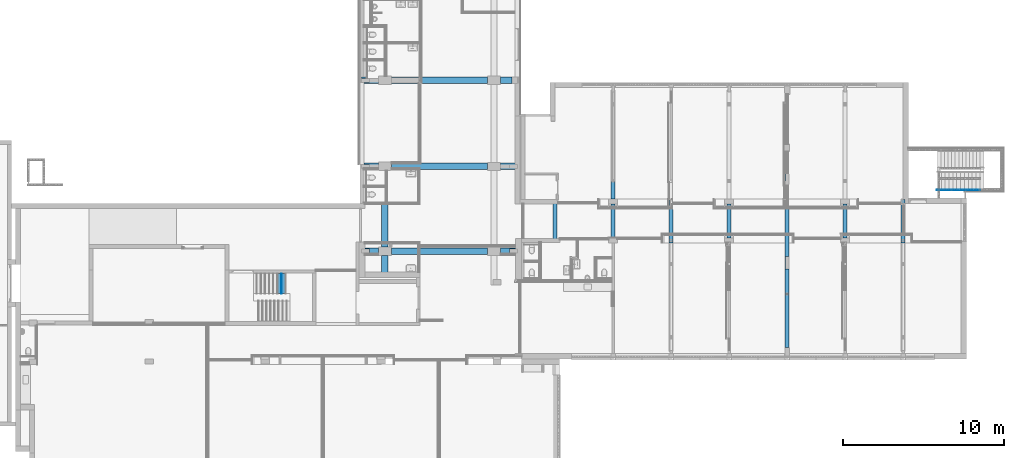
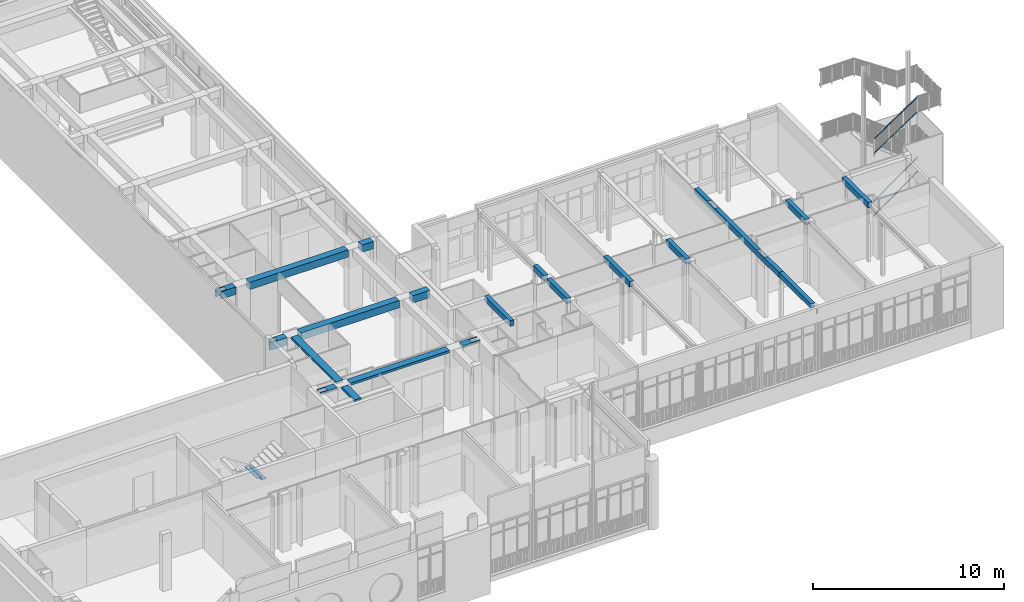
# One storey, part 59 of 135: 12 beams, 7 members, 3 elements without a shape of their own.
"""IFC2X3 building model written with IfcOpenShell, lengths in millimetres."""

from ifc_helpers import new_model, entity, si_unit, converted_unit, derived_unit, money_unit, direction, frame, origin_with_axes, place, context, subcontext, project, spatial, faceted_brep, material, type_object, element, aggregate, save


model = new_model("IFC2X3")

# Units and contexts
model_context = context("Model", 3, precision=0.01, world=origin_with_axes(), true_north=direction((0.0, 1.0)))
body_context = subcontext(model_context, "Body", "Model", "MODEL_VIEW")
ifc_project = project(units=[si_unit("LENGTHUNIT", "METRE", prefix="MILLI"), si_unit("AREAUNIT", "SQUARE_METRE"), si_unit("VOLUMEUNIT", "CUBIC_METRE"), converted_unit("PLANEANGLEUNIT", "DEGREE", entity("IfcPlaneAngleMeasure", 0.0174532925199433), si_unit("PLANEANGLEUNIT", "RADIAN"), dimensions=[0, 0, 0, 0, 0, 0, 0]), money_unit("EUR"), converted_unit("TIMEUNIT", "Year", entity("IfcTimeMeasure", 31557600.0), si_unit("TIMEUNIT", "SECOND"), dimensions=[0, 0, 1, 0, 0, 0, 0]), si_unit("MASSUNIT", "GRAM", prefix="KILO"), si_unit("THERMODYNAMICTEMPERATUREUNIT", "DEGREE_CELSIUS"), si_unit("LUMINOUSINTENSITYUNIT", "LUMEN"), si_unit("ENERGYUNIT", "JOULE", prefix="MEGA"), derived_unit("THERMALCONDUCTANCEUNIT", [(si_unit("POWERUNIT", "WATT"), 1), (si_unit("LENGTHUNIT", "METRE"), -1), (si_unit("THERMODYNAMICTEMPERATUREUNIT", "KELVIN"), -1)]), derived_unit("SPECIFICHEATCAPACITYUNIT", [(si_unit("ENERGYUNIT", "JOULE"), 1), (si_unit("MASSUNIT", "GRAM", prefix="KILO"), -1), (si_unit("THERMODYNAMICTEMPERATUREUNIT", "KELVIN"), -1)]), derived_unit("MASSDENSITYUNIT", [(si_unit("MASSUNIT", "GRAM", prefix="KILO"), 1), (si_unit("VOLUMEUNIT", "CUBIC_METRE"), -1)])], contexts=[model_context])

# Site, building, storey
site_placement = place(None, origin_with_axes())
site = spatial("IfcSite", under=ifc_project, at=site_placement, Name="Site", CompositionType="ELEMENT")
building_placement = place(site_placement, origin_with_axes())
building = spatial("IfcBuilding", under=site, at=building_placement, Name="Naam gebouw", CompositionType="ELEMENT")
storey_placement = place(building_placement, origin_with_axes())
storey = spatial("IfcBuildingStorey", under=building, at=storey_placement, Name="Begane grond N", CompositionType="ELEMENT", Elevation=0.0)

# Railing, members
railing_type = type_object("IfcRailingType", Name="Railing Type", PredefinedType="NOTDEFINED")
railing_1_placement = place(storey_placement, frame((56236.62159597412, 21185.9124251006, 157.4646725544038), z_axis=(0.0, 0.0, 1.0), x_axis=(1.0, 0.0, 0.0)))
railing_1 = element("IfcRailing", 1, at=railing_1_placement, inside=storey, type_object=railing_type, Name="_Reling-x", PredefinedType="NOTDEFINED")
ifc_material_1 = material(Name="Metaal - Staal C")
member_type_1 = type_object("IfcMemberType", Name="IfcMember", PredefinedType="USERDEFINED")
member_1_placement = place(railing_1_placement, frame((1202.89689632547, -24.99999999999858, 971.7157287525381), z_axis=(0.0, 0.0, 1.0), x_axis=(1.0, 0.0, 0.0)))
member_1 = element("IfcMember", 2, at=member_1_placement, type_object=member_type_1, material=ifc_material_1, Name="_Bovenregel-x", context=body_context, shape_type="Brep", body=[
    faceted_brep([(-1339.518492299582, -19.99999999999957, 28.2842712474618), (-1327.827203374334, -19.99999999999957, 12.05732565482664), (1345.972963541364, -19.99999999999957, 1938.493209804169), (1339.51849229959, -19.99999999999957, 1958.493209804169), (-1339.518492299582, 19.99999999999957, 28.2842712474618), (-1327.827203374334, 19.99999999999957, 12.05732565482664), (1345.972963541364, 19.99999999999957, 1938.493209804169), (1339.51849229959, 19.99999999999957, 1958.493209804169)], [[[0, 1, 2, 3]], [[0, 4, 5, 1]], [[1, 5, 6, 2]], [[3, 2, 6, 7]], [[4, 0, 3, 7]], [[5, 4, 7, 6]]]),
])
member_2_placement = place(railing_1_placement, frame((1202.89689632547, -24.99999999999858, 47.63932022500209), z_axis=(0.0, 0.0, 1.0), x_axis=(1.0, 0.0, 0.0)))
member_2 = element("IfcMember", 3, at=member_2_placement, type_object=member_type_1, material=ifc_material_1, Name="_Regel-x", context=body_context, shape_type="Brep", body=[
    faceted_brep([(-1345.364136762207, -19.99999999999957, 30.47415257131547), (-1333.672847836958, -19.99999999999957, 14.24720697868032), (1342.745727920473, -19.99999999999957, 1942.569618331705), (1336.291256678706, -19.99999999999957, 1962.569618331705), (-1345.364136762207, 19.99999999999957, 30.47415257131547), (-1333.672847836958, 19.99999999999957, 14.24720697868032), (1342.745727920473, 19.99999999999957, 1942.569618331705), (1336.291256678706, 19.99999999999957, 1962.569618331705)], [[[0, 1, 2, 3]], [[0, 4, 5, 1]], [[1, 5, 6, 2]], [[3, 2, 6, 7]], [[4, 0, 3, 7]], [[5, 4, 7, 6]]]),
])
aggregate(railing_1, [member_1, member_2])

railing_2_placement = place(storey_placement, frame((56236.62159597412, 21185.9124251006, 4176.0), z_axis=(0.0, 0.0, 1.0), x_axis=(1.0, 0.0, 0.0)))
railing_2 = element("IfcRailing", 4, at=railing_2_placement, inside=storey, type_object=railing_type, Name="_Reling-x", PredefinedType="NOTDEFINED")
member_3_placement = place(railing_2_placement, frame((1221.712123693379, -24.99999999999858, 971.715728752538), z_axis=(0.0, 0.0, 1.0), x_axis=(1.0, 0.0, 0.0)))
member_3 = element("IfcMember", 5, at=member_3_placement, type_object=member_type_1, material=ifc_material_1, Name="_Bovenregel-x", context=body_context, shape_type="Brep", body=[
    faceted_brep([(-1299.780336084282, -19.99999999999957, 28.28427124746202), (-1288.670246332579, -19.99999999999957, 11.6540004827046), (1305.846406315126, -19.99999999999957, 1744.957882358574), (1299.780336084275, -19.99999999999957, 1764.957882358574), (-1299.780336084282, 19.99999999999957, 28.28427124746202), (-1288.670246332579, 19.99999999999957, 11.6540004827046), (1305.846406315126, 19.99999999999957, 1744.957882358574), (1299.780336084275, 19.99999999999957, 1764.957882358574)], [[[0, 1, 2, 3]], [[0, 4, 5, 1]], [[1, 5, 6, 2]], [[3, 2, 6, 7]], [[4, 0, 3, 7]], [[5, 4, 7, 6]]]),
])
member_4_placement = place(railing_2_placement, frame((1221.712123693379, -24.99999999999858, 47.63932022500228), z_axis=(0.0, 0.0, 1.0), x_axis=(1.0, 0.0, 0.0)))
member_4 = element("IfcMember", 6, at=member_4_placement, type_object=member_type_1, material=ifc_material_1, Name="_Regel-x", context=body_context, shape_type="Brep", body=[
    faceted_brep([(-1305.33538096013, -19.99999999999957, 30.67581515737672), (-1294.225291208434, -19.99999999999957, 14.04554439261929), (1302.813371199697, -19.99999999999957, 1749.03429088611), (1296.747300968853, -19.99999999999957, 1769.034290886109), (-1305.33538096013, 19.99999999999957, 30.67581515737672), (-1294.225291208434, 19.99999999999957, 14.04554439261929), (1302.813371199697, 19.99999999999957, 1749.03429088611), (1296.747300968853, 19.99999999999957, 1769.034290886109)], [[[0, 1, 2, 3]], [[0, 4, 5, 1]], [[1, 5, 6, 2]], [[3, 2, 6, 7]], [[4, 0, 3, 7]], [[5, 4, 7, 6]]]),
])
aggregate(railing_2, [member_3, member_4])

# Stair, members
stair_placement = place(storey_placement, frame((15729.70019705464, 14715.92025998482, 1379.0), z_axis=(0.0, 0.0, 1.0), x_axis=(1.0, 0.0, 0.0)))
stair = element("IfcStair", 7, at=stair_placement, inside=storey, Name="_Trap-x", ShapeType="NOTDEFINED")
ifc_material_2 = material(Name="Hout - Vloer")
member_type_2 = type_object("IfcMemberType", Name="IfcMember", PredefinedType="USERDEFINED")
member_5_placement = place(stair_placement, frame((0.0, 619.9999999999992, 173.5), z_axis=(0.0, 0.0, 1.0), x_axis=(0.0, 1.0, 0.0)))
member_5 = element("IfcMember", 8, at=member_5_placement, type_object=member_type_2, material=ifc_material_2, Name="_Traptrede-x", context=body_context, shape_type="Brep", body=[
    faceted_brep([(-620.0, 0.0, -38.0), (620.0, 0.0, -38.0), (620.0, 0.0, 0.0), (-620.0, 0.0, 0.0), (-620.0, 315.3999598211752, -38.0), (620.0, 315.3999598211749, -38.0), (620.0, 315.3999598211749, 0.0), (-620.0, 315.3999598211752, 0.0)], [[[0, 1, 2, 3]], [[0, 4, 5, 1]], [[1, 5, 6, 2]], [[3, 2, 6, 7]], [[4, 0, 3, 7]], [[5, 4, 7, 6]]]),
])
member_6_placement = place(stair_placement, frame((-257.3999598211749, 619.9999999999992, 347.0), z_axis=(0.0, 0.0, 1.0), x_axis=(0.0, 1.0, 0.0)))
member_6 = element("IfcMember", 9, at=member_6_placement, type_object=member_type_2, material=ifc_material_2, Name="_Traptrede-x", context=body_context, shape_type="Brep", body=[
    faceted_brep([(-620.0, 0.0, -38.0), (620.0, 0.0, -38.0), (620.0, 0.0, 0.0), (-620.0, 0.0, 0.0), (-620.0, 315.3999598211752, -38.0), (620.0, 315.3999598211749, -38.0), (620.0, 315.3999598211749, 0.0), (-620.0, 315.3999598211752, 0.0)], [[[0, 1, 2, 3]], [[0, 4, 5, 1]], [[1, 5, 6, 2]], [[3, 2, 6, 7]], [[4, 0, 3, 7]], [[5, 4, 7, 6]]]),
])

# Beams
ifc_material_3 = material(Name="ALG - CONSTRUCTIEF KOLOM")
beam_type_1 = type_object("IfcBeamType", Name="ALG - CONSTRUCTIEF KOLOM 400 x 470", PredefinedType="BEAM")
beam_1_placement = place(storey_placement, frame((20386.0, 27955.91242510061, 3850.0), z_axis=(0.0, 0.0, 1.0), x_axis=(0.0, -1.0, 0.0)))
element("IfcBeam", 10, at=beam_1_placement, inside=storey, type_object=beam_type_1, material=ifc_material_3, Name="_Balk-x", ObjectType="BEAM", context=body_context, shape_type="Brep", body=[
    faceted_brep([(199.9999999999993, 149.9999999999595, 0.0), (200.0000161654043, 1040.000002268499, 0.0), (-199.9999999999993, 1040.000000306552, 0.0), (-199.9999999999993, 0.0, 0.0), (-125.0, 0.0, 0.0), (-125.0, 500.0, 0.0), (125.0, 500.0, 0.0), (125.0, 150.0000000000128, 0.0), (199.9999999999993, 149.9999999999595, -470.0019126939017), (199.9999999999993, 1040.000002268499, -470.0019126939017), (-199.9999999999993, 1040.000002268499, -470.0019126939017), (-199.9999999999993, 0.0, -470.0019126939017), (-125.0, 0.0, -470.0019126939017), (-125.0, 500.0, -470.0019126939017), (125.0, 500.0, -470.0019126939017), (125.0, 149.9999999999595, -470.0019126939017)], [[[0, 1, 2, 3, 4, 5, 6, 7]], [[8, 9, 1, 0]], [[9, 10, 2, 1]], [[3, 2, 10, 11]], [[11, 12, 4, 3]], [[13, 5, 4, 12]], [[14, 6, 5, 13]], [[15, 7, 6, 14]], [[0, 7, 15, 8]], [[11, 10, 9, 8, 15, 14, 13, 12]]]),
    faceted_brep([(-199.9999999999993, 9339.999999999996, -470.0019126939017), (-199.9999999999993, 8629.999999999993, -470.0019126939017), (-199.9999999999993, 8629.999999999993, 0.0), (-199.9999999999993, 9339.999999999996, 0.0), (199.9999999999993, 9339.999999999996, -470.0019126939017), (199.9999999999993, 8629.999999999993, -470.0019126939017), (199.9999999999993, 8629.999999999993, 0.0), (199.9999999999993, 9339.999999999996, 0.0)], [[[0, 1, 2, 3]], [[4, 5, 1, 0]], [[5, 6, 2, 1]], [[3, 2, 6, 7]], [[4, 0, 3, 7]], [[7, 6, 5, 4]]]),
    faceted_brep([(-199.9999999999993, 7809.999999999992, -470.0019126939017), (-199.9999999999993, 1859.99999942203, -470.0019126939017), (-199.9999999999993, 1859.999999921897, 0.0), (-199.9999999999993, 7809.999999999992, 0.0), (199.9999999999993, 7809.999999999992, -470.0019126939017), (199.9999999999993, 1859.99999942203, -470.0019126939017), (200.0000061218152, 1859.99999942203, 0.0), (199.9999999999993, 7809.999999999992, 0.0)], [[[0, 1, 2, 3]], [[4, 5, 1, 0]], [[5, 6, 2, 1]], [[3, 2, 6, 7]], [[4, 0, 3, 7]], [[7, 6, 5, 4]]]),
])
beam_2_placement = place(storey_placement, frame((20386.0, 22620.0978083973, 3850.0), z_axis=(0.0, 0.0, 1.0), x_axis=(0.0, -1.0, 0.0)))
element("IfcBeam", 11, at=beam_2_placement, inside=storey, type_object=beam_type_1, material=ifc_material_3, Name="_Balk-x", ObjectType="BEAM", context=body_context, shape_type="Brep", body=[
    faceted_brep([(199.9999999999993, 0.0, 0.0), (199.9999999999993, 1039.999999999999, 0.0), (-199.9999999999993, 1039.999999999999, 0.0), (-199.9999999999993, 149.9999999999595, 0.0), (-130.8146167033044, 150.0000000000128, 0.0), (-130.8146167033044, 500.0, 0.0), (119.1853832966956, 500.0, 0.0), (119.1853832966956, 0.0, 0.0), (199.9999999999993, 0.0, -470.0025871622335), (199.9999999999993, 1039.999999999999, -470.0025871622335), (-199.9999999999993, 1039.999999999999, -470.0025871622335), (-199.9999999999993, 149.9999999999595, -470.0025871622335), (-130.8146167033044, 149.9999999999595, -470.0025871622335), (-130.8146167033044, 500.0, -470.0025871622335), (119.1853832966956, 500.0, -470.0025871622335), (119.1853832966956, 0.0, -470.0025871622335)], [[[0, 1, 2, 3, 4, 5, 6, 7]], [[8, 9, 1, 0]], [[9, 10, 2, 1]], [[3, 2, 10, 11]], [[11, 12, 4, 3]], [[13, 5, 4, 12]], [[14, 6, 5, 13]], [[7, 6, 14, 15]], [[0, 7, 15, 8]], [[11, 10, 9, 8, 15, 14, 13, 12]]]),
    faceted_brep([(-199.9999999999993, 9669.999999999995, -470.0025871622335), (-199.9999999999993, 8619.99999999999, -470.0025871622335), (-199.9999999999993, 8619.99999999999, 0.0), (-199.9999999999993, 9669.999999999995, 0.0), (199.9999999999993, 9669.999999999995, -470.0025871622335), (199.9999999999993, 8619.99999999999, -470.0025871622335), (-130.8146167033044, 9669.999999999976, -470.0025871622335), (-130.8146167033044, 9169.999999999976, -470.0025871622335), (119.1853832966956, 9169.999999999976, -470.0025871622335), (119.1853832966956, 9669.999999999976, -470.0025871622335), (199.9999999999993, 8619.99999999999, 0.0), (199.9999999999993, 9669.999999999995, 0.0), (119.1853832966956, 9669.999999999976, -150.0000000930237), (-130.8146167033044, 9669.999999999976, -150.0000000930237), (-130.8146167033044, 9169.999999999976, -150.0000000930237), (119.1853832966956, 9169.999999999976, -150.0000000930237)], [[[0, 1, 2, 3]], [[4, 5, 1, 0, 6, 7, 8, 9]], [[5, 10, 2, 1]], [[3, 2, 10, 11]], [[4, 9, 12, 13, 6, 0, 3, 11]], [[11, 10, 5, 4]], [[7, 6, 13, 14]], [[15, 8, 7, 14]], [[15, 12, 9, 8]], [[14, 13, 12, 15]]]),
    faceted_brep([(-199.9999999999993, 7819.999999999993, -470.0025871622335), (-199.9999999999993, 1860.0, -470.0025871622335), (-199.9999999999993, 1860.0, 0.0), (-199.9999999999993, 7819.999999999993, 0.0), (199.9999999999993, 7819.999999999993, -470.0025871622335), (199.9999999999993, 1860.0, -470.0025871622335), (199.9999999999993, 1860.0, 0.0), (199.9999999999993, 7819.999999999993, 0.0)], [[[0, 1, 2, 3]], [[4, 5, 1, 0]], [[5, 6, 2, 1]], [[3, 2, 6, 7]], [[4, 0, 3, 7]], [[7, 6, 5, 4]]]),
])

# Member
member_type_3 = type_object("IfcMemberType", Name="IfcMember", PredefinedType="USERDEFINED")
member_7_placement = place(stair_placement, frame((-257.3999598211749, 619.9999999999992, 308.9999999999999), z_axis=(0.0, 0.0, 1.0), x_axis=(0.0, 1.0, 0.0)))
member_7 = element("IfcMember", 12, at=member_7_placement, type_object=member_type_3, material=ifc_material_2, Name="_Stootbord-x", context=body_context, shape_type="Brep", body=[
    faceted_brep([(620.0, 40.0, 0.0), (620.0, 57.99999999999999, 0.0), (-620.0, 58.00000000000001, 0.0), (-620.0, 40.00000000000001, 0.0), (620.0, 40.00000000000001, -135.5), (620.0, 58.00000000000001, -135.5), (-620.0, 58.00000000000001, -135.5), (-620.0, 40.00000000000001, -135.5)], [[[0, 1, 2, 3]], [[0, 4, 5, 1]], [[1, 5, 6, 2]], [[3, 2, 6, 7]], [[4, 0, 3, 7]], [[5, 4, 7, 6]]]),
])

aggregate(stair, [member_7, member_5, member_6])

# Beams
beam_type_2 = type_object("IfcBeamType", Name="ALG - CONSTRUCTIEF KOLOM 250 x 350", PredefinedType="BEAM")
beam_3_placement = place(storey_placement, frame((46800.0, 23769.98273941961, 3850.000195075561), z_axis=(0.0, 0.0, 1.0), x_axis=(-1.0, 0.0, 0.0)))
element("IfcBeam", 13, at=beam_3_placement, inside=storey, type_object=beam_type_2, material=ifc_material_3, Name="_Balk-x", ObjectType="BEAM", context=body_context, shape_type="Brep", body=[
    faceted_brep([(125.0, 9070.140693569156, -350.0001950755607), (125.0, 237.0913588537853, -350.0001950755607), (-125.0, 237.9132433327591, -350.0001950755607), (-125.0, 9070.140693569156, -350.0001950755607), (112.5000000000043, 6739.070314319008, -350.0001950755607), (112.5000000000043, 7509.070314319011, -350.0001950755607), (-112.4999999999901, 7509.070314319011, -350.0001950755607), (-112.4999999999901, 6739.070314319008, -350.0001950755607), (112.5000000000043, 1579.070314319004, -350.0001950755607), (112.5000000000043, 2349.070314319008, -350.0001950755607), (-112.4999999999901, 2349.070314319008, -350.0001950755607), (-112.4999999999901, 1579.070314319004, -350.0001950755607), (125.0, 9070.140693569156, 0.0), (125.0, 237.0913588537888, -0.0001950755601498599), (-125.0, 237.9132433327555, -0.0001950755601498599), (-125.0, 9070.140693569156, 0.0), (112.5000000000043, 6739.070314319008, -0.0001950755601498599), (112.5000000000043, 7509.070314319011, -0.0001950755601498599), (-112.4999999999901, 7509.070314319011, -0.0001950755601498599), (-112.4999999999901, 6739.070314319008, -0.0001950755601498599), (112.5000000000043, 1579.070314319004, -0.0001950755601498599), (112.5000000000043, 2349.070314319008, -0.0001950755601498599), (-112.4999999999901, 2349.070314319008, -0.0001950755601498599), (-112.4999999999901, 1579.070314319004, -0.0001950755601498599)], [[[0, 1, 2, 3], [4, 5, 6, 7], [8, 9, 10, 11]], [[12, 13, 1, 0]], [[1, 13, 14, 2]], [[3, 2, 14, 15]], [[3, 15, 12, 0]], [[4, 16, 17, 5]], [[5, 17, 18, 6]], [[6, 18, 19, 7]], [[7, 19, 16, 4]], [[8, 20, 21, 9]], [[9, 21, 22, 10]], [[10, 22, 23, 11]], [[11, 23, 20, 8]], [[15, 14, 13, 12], [18, 17, 16, 19], [22, 21, 20, 23]]]),
])
for number, where, z_axis, x_axis, name in (
    (14, (43199.99999999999, 20580.91242510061, 3850.0), (0.0, 0.0, 1.0), (-1.0, 0.0, 0.0), "_Balk-x"),
    (15, (50399.99999999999, 20580.91242510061, 3850.0), (0.0, 0.0, 1.0), (-1.0, 0.0, 0.0), "_Balk-x"),
):
    element("IfcBeam", number, at=place(storey_placement, frame(where, z_axis=z_axis, x_axis=x_axis)), inside=storey, type_object=beam_type_2, material=ifc_material_3, Name=name, ObjectType="BEAM", context=body_context, shape_type="Brep", body=[
        faceted_brep([(125.0, 310.0000000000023, 0.0), (125.0, 2399.999999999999, 0.0), (-125.0, 2399.999999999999, 0.0), (-125.0, 310.0000000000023, 0.0), (125.0, 310.0000000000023, -350.0000034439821), (125.0, 2399.999999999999, -350.0000034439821), (-125.0, 2399.999999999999, -350.0000034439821), (-125.0, 310.0000000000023, -350.0000034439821)], [[[0, 1, 2, 3]], [[4, 5, 1, 0]], [[5, 6, 2, 1]], [[3, 2, 6, 7]], [[4, 0, 3, 7]], [[7, 6, 5, 4]]]),
    ])
beam_4_placement = place(storey_placement, frame((54000.0, 20575.91242510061, 3850.0), z_axis=(0.0, 0.0, 1.0), x_axis=(-1.0, 0.0, 0.0)))
element("IfcBeam", 16, at=beam_4_placement, inside=storey, type_object=beam_type_2, material=ifc_material_3, Name="_Balk-x", ObjectType="BEAM", context=body_context, shape_type="Brep", body=[
    faceted_brep([(125.0, 0.0, -350.0000068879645), (-125.0, 0.0, -350.0000068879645), (-125.0, 2705.000000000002, -350.0000068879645), (125.0, 2705.000000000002, -350.0000068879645), (125.0, 0.0, 0.0), (-125.0, 0.0, 0.0), (-125.0, 2705.000000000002, 0.0), (125.0, 2705.000000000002, 0.0)], [[[0, 1, 2, 3]], [[4, 5, 1, 0]], [[1, 5, 6, 2]], [[7, 3, 2, 6]], [[4, 0, 3, 7]], [[5, 4, 7, 6]]]),
])
beam_5_placement = place(storey_placement, frame((39599.99999999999, 20575.9123923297, 3850.0), z_axis=(0.0, 0.0, 1.0), x_axis=(-1.0, 0.0, 0.0)))
element("IfcBeam", 17, at=beam_5_placement, inside=storey, type_object=beam_type_2, material=ifc_material_3, Name="_Balk-x", ObjectType="BEAM", context=body_context, shape_type="Brep", body=[
    faceted_brep([(125.0, 2704.9999672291, -350.0000034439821), (125.0, 0.0, -350.0000034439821), (-125.0, 0.0, -350.0000034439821), (-125.0, 2704.9999672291, -350.0000034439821), (125.0, 2704.9999672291, 0.0), (125.0, 0.0, 0.0), (-125.0, 0.0, 0.0), (-125.0, 2704.9999672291, 0.0)], [[[0, 1, 2, 3]], [[4, 5, 1, 0]], [[1, 5, 6, 2]], [[3, 2, 6, 7]], [[7, 4, 0, 3]], [[7, 6, 5, 4]]]),
])
beam_6_placement = place(storey_placement, frame((36000.0, 21690.9124251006, 3850.0), z_axis=(0.0, 0.0, 1.0), x_axis=(-1.0, 0.0, 0.0)))
element("IfcBeam", 18, at=beam_6_placement, inside=storey, type_object=beam_type_2, material=ifc_material_3, Name="_Balk-x", ObjectType="BEAM", context=body_context, shape_type="Brep", body=[
    faceted_brep([(125.0, 1419.999999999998, 0.0), (125.0, 3509.999999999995, 0.0), (-125.0, 3509.999999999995, 0.0), (-125.0, 1419.999999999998, 0.0), (125.0, 1419.999999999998, -350.0000068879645), (125.0, 3509.999999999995, -350.0000068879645), (-125.0, 3509.999999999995, -350.0000068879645), (-125.0, 1419.999999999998, -350.0000068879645)], [[[0, 1, 2, 3]], [[4, 5, 1, 0]], [[5, 6, 2, 1]], [[3, 2, 6, 7]], [[4, 0, 3, 7]], [[7, 6, 5, 4]]]),
    faceted_brep([(125.0, 0.0, 0.0), (125.0, 1109.999999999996, 0.0), (-125.0, 1109.999999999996, 0.0), (-125.0, 0.0, 0.0), (125.0, 0.0, -350.0000068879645), (125.0, 1109.999999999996, -350.0000068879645), (-125.0, 1109.999999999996, -350.0000068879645), (-125.0, 0.0, -350.0000068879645)], [[[0, 1, 2, 3]], [[4, 5, 1, 0]], [[5, 6, 2, 1]], [[3, 2, 6, 7]], [[7, 4, 0, 3]], [[7, 6, 5, 4]]]),
])
beam_7_placement = place(storey_placement, frame((32399.99999999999, 20550.91242510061, 3850.0), z_axis=(0.0, 0.0, 1.0), x_axis=(-1.0, 0.0, 0.0)))
element("IfcBeam", 19, at=beam_7_placement, inside=storey, type_object=beam_type_2, material=ifc_material_3, Name="_Balk-x", ObjectType="BEAM", context=body_context, shape_type="Brep", body=[
    faceted_brep([(125.0, 0.0, -350.0000103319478), (-125.0, 0.0, -350.0000103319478), (-125.0, 2649.999999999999, -350.0000103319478), (125.0, 2649.999999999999, -350.0000103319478), (125.0, 0.0, 0.0), (-125.0, 0.0, 0.0), (-125.0, 2649.999999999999, 0.0), (125.0, 2649.999999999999, 0.0)], [[[0, 1, 2, 3]], [[4, 5, 1, 0]], [[1, 5, 6, 2]], [[7, 3, 2, 6]], [[4, 0, 3, 7]], [[5, 4, 7, 6]]]),
])
beam_type_3 = type_object("IfcBeamType", Name="ALG - CONSTRUCTIEF KOLOM 400 x 250", PredefinedType="BEAM")
beam_8_placement = place(storey_placement, frame((21836.0, 22625.91242510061, 3950.0), z_axis=(0.0, 0.0, 1.0), x_axis=(-1.0, 0.0, 0.0)))
element("IfcBeam", 20, at=beam_8_placement, inside=storey, type_object=beam_type_3, material=ifc_material_3, Name="_Balk-x", ObjectType="BEAM", context=body_context, shape_type="Brep", body=[
    faceted_brep([(199.9999999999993, 262.4999999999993, -100.0000000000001), (199.9999999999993, 4997.499999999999, -100.0000000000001), (-199.9999999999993, 4997.499999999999, -100.0000000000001), (-199.9999999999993, 262.4999999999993, -100.0000000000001), (199.9999999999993, 262.4999999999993, -250.0000000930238), (199.9999999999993, 4997.499999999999, -250.0000000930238), (-199.9999999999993, 4997.499999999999, -250.0000000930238), (-199.9999999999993, 262.4999999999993, -250.0000000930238)], [[[0, 1, 2, 3]], [[4, 5, 1, 0]], [[5, 6, 2, 1]], [[3, 2, 6, 7]], [[4, 0, 3, 7]], [[7, 6, 5, 4]]]),
    faceted_brep([(-199.9999999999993, 6901.499999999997, -250.0000000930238), (-199.9999999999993, 5522.499999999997, -250.0000000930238), (-199.9999999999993, 5522.499999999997, -100.0000000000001), (-199.9999999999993, 6901.499999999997, -100.0000000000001), (199.9999999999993, 6901.499999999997, -250.0000000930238), (199.9999999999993, 5522.499999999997, -250.0000000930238), (199.9999999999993, 5522.499999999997, -100.0000000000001), (199.9999999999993, 6901.499999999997, -100.0000000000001)], [[[0, 1, 2, 3]], [[4, 5, 1, 0]], [[5, 6, 2, 1]], [[3, 2, 6, 7]], [[4, 0, 3, 7]], [[7, 6, 5, 4]]]),
])
beam_9_placement = place(storey_placement, frame((20386.0, 17365.91242510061, 3950.0), z_axis=(0.0, 0.0, 1.0), x_axis=(0.0, -1.0, 0.0)))
element("IfcBeam", 21, at=beam_9_placement, inside=storey, type_object=beam_type_3, material=ifc_material_3, Name="_Balk-x", ObjectType="BEAM", context=body_context, shape_type="Brep", body=[
    faceted_brep([(199.9999999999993, 0.0, -100.0000000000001), (199.9999999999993, 1040.000000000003, -100.0000000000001), (-199.9999999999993, 1040.000000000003, -100.0000000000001), (-199.9999999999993, 0.0, -100.0000000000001), (-125.0, 0.0, -100.0000000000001), (-125.0, 500.0, -100.0000000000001), (125.0, 500.0, -100.0000000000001), (125.0, 0.0, -100.0000000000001), (199.9999999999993, 0.0, -250.0000000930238), (199.9999999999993, 1040.000000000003, -250.0000000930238), (-199.9999999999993, 1040.000000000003, -250.0000000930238), (-199.9999999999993, 0.0, -250.0000000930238), (-125.0, 0.0, -250.0000000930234), (-125.0, 500.0, -250.0000000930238), (125.0, 500.0, -250.0000000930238), (125.0, 0.0, -250.0000000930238)], [[[0, 1, 2, 3, 4, 5, 6, 7]], [[8, 9, 1, 0]], [[9, 10, 2, 1]], [[3, 2, 10, 11]], [[11, 12, 4, 3]], [[13, 5, 4, 12]], [[14, 6, 5, 13]], [[15, 7, 6, 14]], [[0, 7, 15, 8]], [[11, 10, 9, 8, 15, 14, 13, 12]]]),
    faceted_brep([(-199.9999999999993, 9669.999999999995, -250.0000000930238), (-199.9999999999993, 8629.999999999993, -250.0000000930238), (-199.9999999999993, 8629.999999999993, -100.0000000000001), (-199.9999999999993, 9669.999999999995, -100.0000000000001), (199.9999999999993, 9669.999999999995, -250.0000000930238), (199.9999999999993, 8629.999999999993, -250.0000000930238), (-125.0, 9669.999999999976, -250.0000000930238), (-125.0, 9169.999999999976, -250.0000000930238), (125.0, 9169.999999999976, -250.0000000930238), (125.0, 9669.999999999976, -250.0000000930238), (199.9999999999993, 8629.999999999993, -100.0000000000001), (199.9999999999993, 9669.999999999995, -100.0000000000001), (125.0, 9669.999999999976, -100.0000000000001), (125.0, 9169.999999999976, -100.0000000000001), (-125.0, 9169.999999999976, -100.0000000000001), (-125.0, 9669.999999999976, -100.0000000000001)], [[[0, 1, 2, 3]], [[4, 5, 1, 0, 6, 7, 8, 9]], [[5, 10, 2, 1]], [[3, 2, 10, 11, 12, 13, 14, 15]], [[3, 15, 6, 0]], [[11, 10, 5, 4]], [[7, 6, 15, 14]], [[7, 14, 13, 8]], [[8, 13, 12, 9]], [[4, 9, 12, 11]]]),
    faceted_brep([(-199.9999999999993, 7809.999999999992, -250.0000000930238), (-199.9999999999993, 1860.000000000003, -250.0000000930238), (-199.9999999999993, 1860.000000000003, -100.0000000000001), (-199.9999999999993, 7809.999999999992, -100.0000000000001), (199.9999999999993, 7809.999999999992, -250.0000000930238), (199.9999999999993, 1860.000000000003, -250.0000000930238), (199.9999999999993, 1860.000000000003, -100.0000000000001), (199.9999999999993, 7809.999999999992, -100.0000000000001)], [[[0, 1, 2, 3]], [[4, 5, 1, 0]], [[5, 6, 2, 1]], [[3, 2, 6, 7]], [[4, 0, 3, 7]], [[7, 6, 5, 4]]]),
])
beam_type_4 = type_object("IfcBeamType", Name="ALG - CONSTRUCTIEF KOLOM 250 x 300", PredefinedType="BEAM")
beam_10_placement = place(storey_placement, frame((46800.00000000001, 14699.84204585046, 3850.000000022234), z_axis=(0.0, 0.0, 1.0), x_axis=(-1.0, 0.0, 0.0)))
element("IfcBeam", 22, at=beam_10_placement, inside=storey, type_object=beam_type_4, material=ifc_material_3, Name="_Balk-x", ObjectType="BEAM", context=body_context, shape_type="Brep", body=[
    faceted_brep([(125.0, 3873.904418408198, -300.000000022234), (1.27897692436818e-10, 3873.904418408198, -300.000000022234), (1.27897692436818e-10, 3873.904418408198, 0.0), (125.0, 3873.904418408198, 0.0), (125.0, 3873.472939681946, -300.000000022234), (125.0, 3873.472939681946, 0.0)], [[[0, 1, 2, 3]], [[0, 4, 1]], [[4, 5, 2, 1]], [[3, 2, 5]], [[3, 5, 4, 0]]]),
    faceted_brep([(125.0, 0.0, 0.0), (125.0, 3333.469722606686, -2.223332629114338e-08), (-125.0, 3334.332680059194, -2.223332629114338e-08), (-125.0, 0.0, 0.0), (125.0, 0.0, -300.000000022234), (125.0, 3333.469722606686, -300.000000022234), (-125.0, 3334.332680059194, -300.000000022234), (-125.0, 0.0, -300.000000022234)], [[[0, 1, 2, 3]], [[4, 5, 1, 0]], [[5, 6, 2, 1]], [[3, 2, 6, 7]], [[4, 0, 3, 7]], [[7, 6, 5, 4]]]),
])

save(model, "model.ifc")
